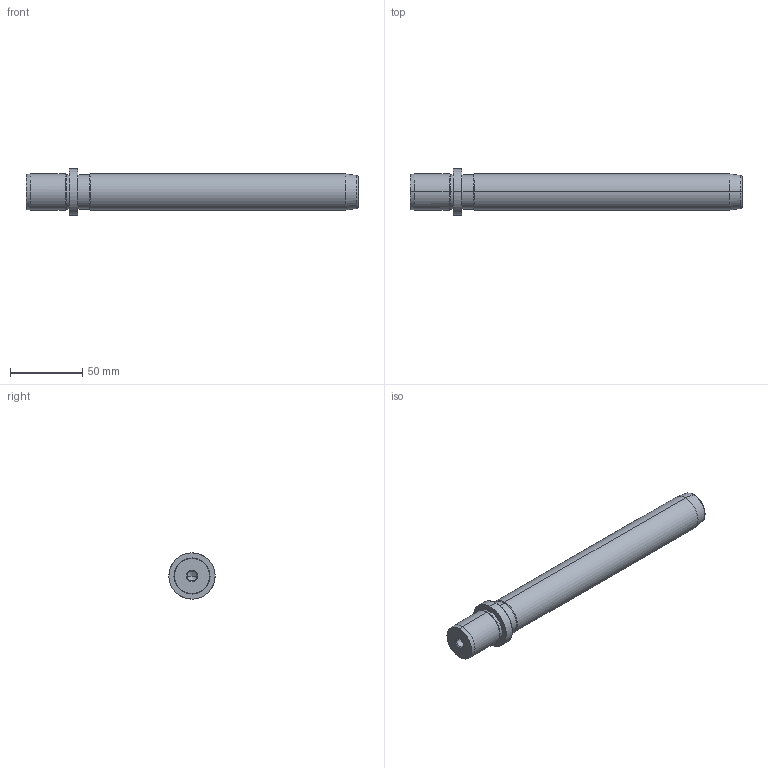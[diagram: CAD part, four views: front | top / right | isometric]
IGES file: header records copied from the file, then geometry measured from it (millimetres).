
Start section: START RECORD GO HERE.
Global section: file name: 719-32x280.igs; native system: DASSAULT SYSTEMES CATIA V5 R20 - www.3ds.com; preprocessor: CATIA Version 5 Release 20 ; author: Utente; organization: NB04-ASUS; date: 20210103.171955; units: millimetre
Bounding box: 230 x 32 x 32 mm (x, y, z)
Surface area: 20700.5 mm2 (no closed solid volume)
Topology: 0 solids, 0 shells, 36 faces, 196 edges, 192 vertices
Faces by surface type: revolution 32, plane 4
